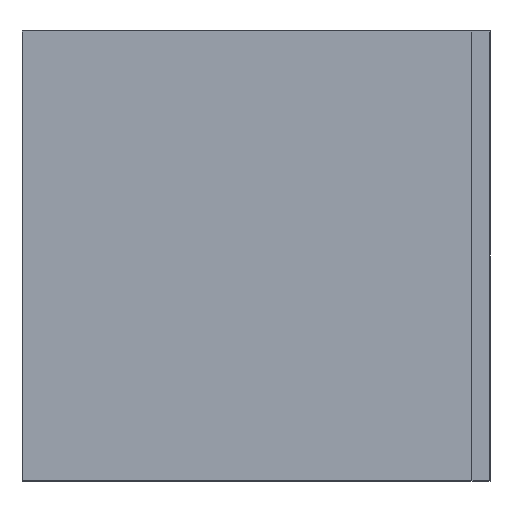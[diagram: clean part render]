
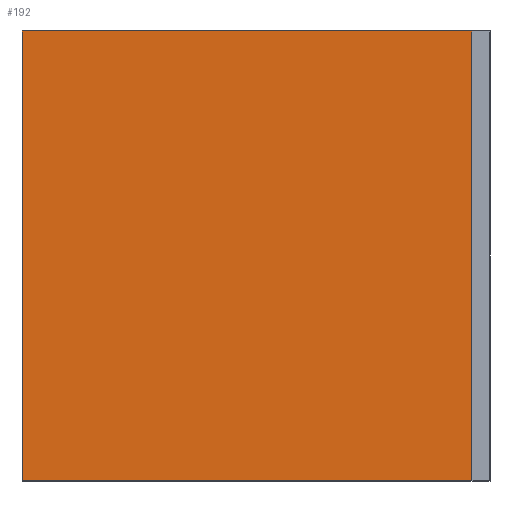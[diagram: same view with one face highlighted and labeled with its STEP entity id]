
A CAD part, left-side view. The second image highlights one B-rep face of the part: STEP entity #192.
In plain terms, the highlighted planar face has unit normal (-1, 0, 0).
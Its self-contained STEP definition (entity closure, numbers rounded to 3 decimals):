
#65 = PLANE ( 'NONE',  #242 ) ;
#66 = CARTESIAN_POINT ( 'NONE',  ( 0., 5., -2.5 ) ) ;
#71 = DIRECTION ( 'NONE',  ( 1., 0., 0. ) ) ;
#72 = DIRECTION ( 'NONE',  ( 0., 0., -1. ) ) ;
#90 = CARTESIAN_POINT ( 'NONE',  ( 0., 5., -2.5 ) ) ;
#96 = CARTESIAN_POINT ( 'NONE',  ( 0., 0., -2.5 ) ) ;
#103 = CARTESIAN_POINT ( 'NONE',  ( 0., 5., -2.5 ) ) ;
#105 = DIRECTION ( 'NONE',  ( 0., -1., 0. ) ) ;
#106 = DIRECTION ( 'NONE',  ( 0., 0., 1. ) ) ;
#107 = CARTESIAN_POINT ( 'NONE',  ( 0., 5., 2.5 ) ) ;
#109 = DIRECTION ( 'NONE',  ( 0., -1., 0. ) ) ;
#110 = DIRECTION ( 'NONE',  ( 0., 0., 1. ) ) ;
#144 = ORIENTED_EDGE ( 'NONE', *, *, #214, .F. ) ;
#145 = ORIENTED_EDGE ( 'NONE', *, *, #215, .F. ) ;
#152 = VERTEX_POINT ( 'NONE', #172 ) ;
#153 = VERTEX_POINT ( 'NONE', #170 ) ;
#154 = VERTEX_POINT ( 'NONE', #174 ) ;
#155 = VERTEX_POINT ( 'NONE', #320 ) ;
#163 = ORIENTED_EDGE ( 'NONE', *, *, #216, .T. ) ;
#169 = ORIENTED_EDGE ( 'NONE', *, *, #213, .T. ) ;
#170 = CARTESIAN_POINT ( 'NONE',  ( 0., 0., 2.5 ) ) ;
#172 = CARTESIAN_POINT ( 'NONE',  ( 0., 5., -2.5 ) ) ;
#174 = CARTESIAN_POINT ( 'NONE',  ( 0., 0., -2.5 ) ) ;
#192 = ADVANCED_FACE ( 'NONE', ( #362 ), #65, .F. ) ;
#213 = EDGE_CURVE ( 'NONE', #152, #154, #336, .T. ) ;
#214 = EDGE_CURVE ( 'NONE', #152, #155, #342, .T. ) ;
#215 = EDGE_CURVE ( 'NONE', #155, #153, #332, .T. ) ;
#216 = EDGE_CURVE ( 'NONE', #154, #153, #334, .T. ) ;
#242 = AXIS2_PLACEMENT_3D ( 'NONE', #66, #71, #72 ) ;
#284 = EDGE_LOOP ( 'NONE', ( #163, #145, #144, #169 ) ) ;
#320 = CARTESIAN_POINT ( 'NONE',  ( 0., 5., 2.5 ) ) ;
#327 = VECTOR ( 'NONE', #110, 1000. ) ;
#329 = VECTOR ( 'NONE', #109, 1000. ) ;
#331 = VECTOR ( 'NONE', #106, 1000. ) ;
#332 = LINE ( 'NONE', #107, #329 ) ;
#333 = VECTOR ( 'NONE', #105, 1000. ) ;
#334 = LINE ( 'NONE', #96, #327 ) ;
#336 = LINE ( 'NONE', #103, #333 ) ;
#342 = LINE ( 'NONE', #90, #331 ) ;
#362 = FACE_OUTER_BOUND ( 'NONE', #284, .T. ) ;
